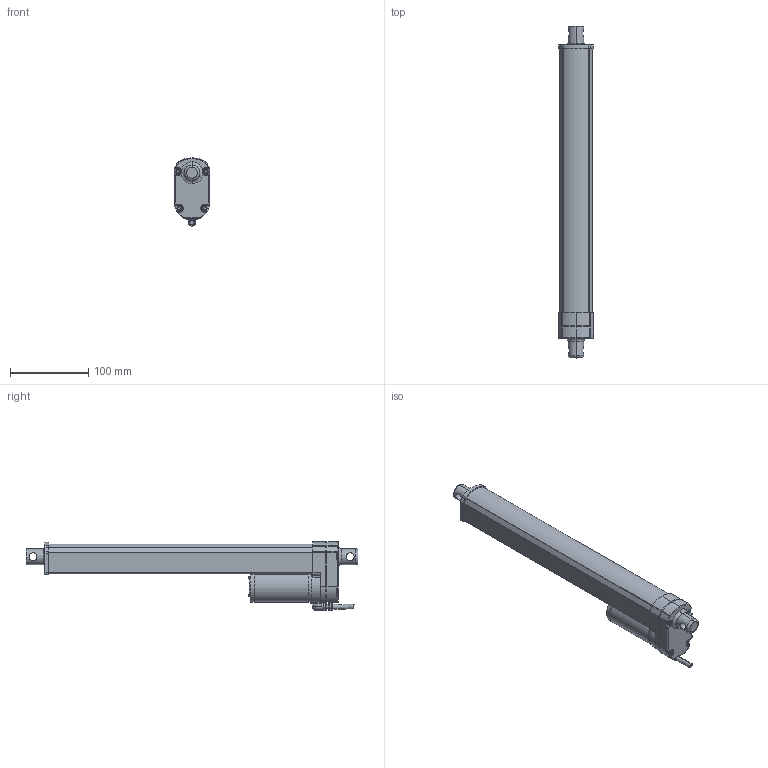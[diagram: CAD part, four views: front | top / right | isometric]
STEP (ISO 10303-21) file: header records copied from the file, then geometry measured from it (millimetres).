
FILE_DESCRIPTION((''),' ');
FILE_NAME('DSZY4-300-std_enc.stp',' ',('R. Lindner'),('MSW GmbH'),' ','ACIS 14.0',' ');
FILE_SCHEMA(('automotive_design'));
Length unit declared in the file: inch
Products named in the file (8): DSZY4-300-HS2|NAUO1#«e»\_1;NONE; DSZY4-300-HS2|NAUO2#¥~ºÞ_1;¿é¤J1; DSZY4-300-HS2|NAUO3#¨¾Â\Àô_1;¿é¤J1; DSZY4-300-HS2|NAUO4#26x20x5ªo«Ê_1;¿é¤J1; DSZY4-300-HS2|NAUO5#¤ººÞ_1;¿é¤J1; DSZY4-300-HS2|NAUO6#­I»\_1;¿é¤J1; DSZY4-300-HS2|NAUO7#SR_1;¿é¤J1; DSZY4-300-HS2|NAUO8#LD3-80-HS°¨¹F_1;¿é¤J1
Bounding box: 45 x 424 x 87.16 mm (x, y, z)
Volume: 331099.5 mm3; surface area: 164830.6 mm2
Topology: 8 solids, 9 shells, 484 faces, 1270 edges, 821 vertices
Faces by surface type: cylinder 202, plane 200, cone 44, bspline 38
Entity records: 20582 total; most frequent: CARTESIAN_POINT 4419, DIRECTION 2614, ORIENTED_EDGE 2528, EDGE_CURVE 1264, AXIS2_PLACEMENT_3D 984, VERTEX_POINT 821, LINE 646, VECTOR 646
